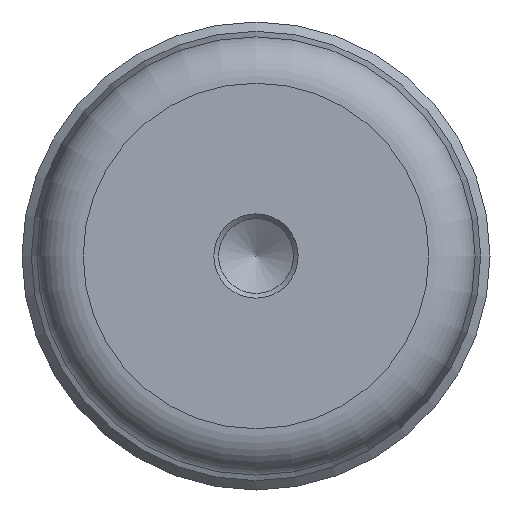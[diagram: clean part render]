
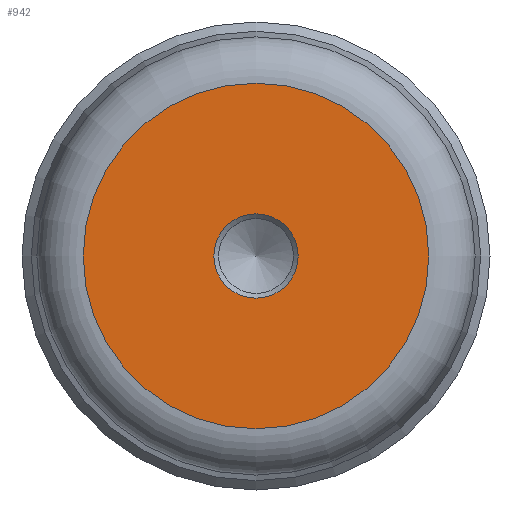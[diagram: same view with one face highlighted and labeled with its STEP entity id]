
A CAD part, left-side view. The second image highlights one B-rep face of the part: STEP entity #942.
In plain terms, the highlighted planar face has unit normal (-1, 0, 0).
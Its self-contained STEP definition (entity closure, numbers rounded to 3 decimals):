
#28=FACE_BOUND('',#149,.T.);
#35=PLANE('',#1035);
#87=FACE_OUTER_BOUND('',#148,.T.);
#148=EDGE_LOOP('',(#620));
#149=EDGE_LOOP('',(#621));
#319=CIRCLE('',#1027,4.5);
#324=CIRCLE('',#1034,18.459);
#387=VERTEX_POINT('',#1474);
#391=VERTEX_POINT('',#1486);
#470=EDGE_CURVE('',#387,#387,#319,.T.);
#477=EDGE_CURVE('',#391,#391,#324,.T.);
#620=ORIENTED_EDGE('',*,*,#477,.F.);
#621=ORIENTED_EDGE('',*,*,#470,.T.);
#942=ADVANCED_FACE('',(#87,#28),#35,.T.);
#1027=AXIS2_PLACEMENT_3D('',#1475,#1169,#1170);
#1034=AXIS2_PLACEMENT_3D('',#1488,#1185,#1186);
#1035=AXIS2_PLACEMENT_3D('',#1489,#1187,#1188);
#1169=DIRECTION('center_axis',(1.,0.,0.));
#1170=DIRECTION('ref_axis',(0.,0.,1.));
#1185=DIRECTION('center_axis',(1.,0.,0.));
#1186=DIRECTION('ref_axis',(0.,-1.,0.));
#1187=DIRECTION('center_axis',(-1.,0.,0.));
#1188=DIRECTION('ref_axis',(0.,0.,1.));
#1474=CARTESIAN_POINT('',(0.,0.,-4.5));
#1475=CARTESIAN_POINT('Origin',(0.,0.,0.));
#1486=CARTESIAN_POINT('',(0.,0.,18.459));
#1488=CARTESIAN_POINT('Origin',(0.,0.,0.));
#1489=CARTESIAN_POINT('Origin',(0.,22.805,0.));
